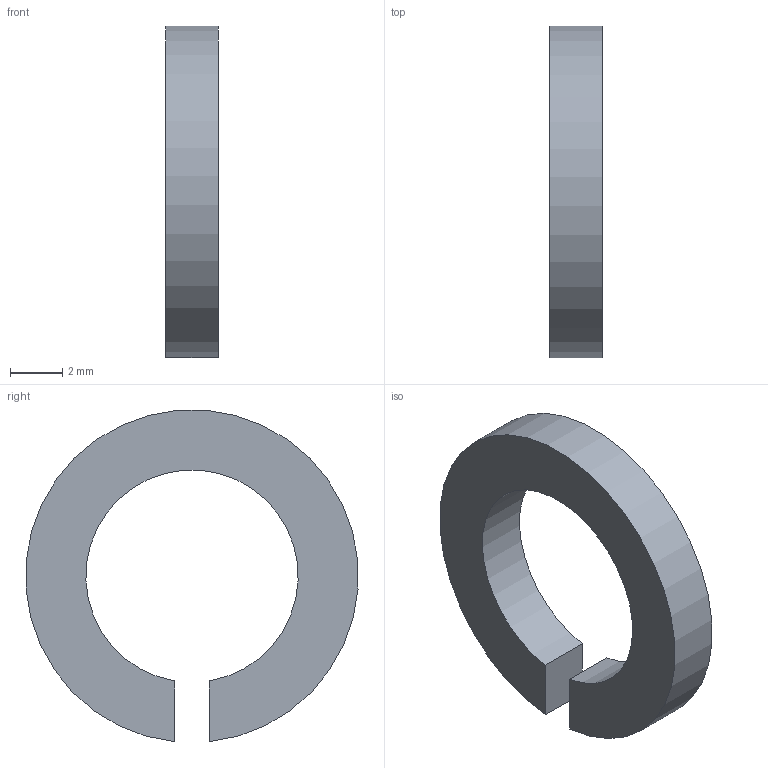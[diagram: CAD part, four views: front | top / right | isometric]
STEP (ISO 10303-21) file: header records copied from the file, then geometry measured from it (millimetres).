
FILE_DESCRIPTION (( 'STEP AP203' ), '1' );
FILE_NAME ('028 Rondelle Elastique.STEP', '2021-10-27T18:26:58', ( '' ), ( '' ), 'SwSTEP 2.0', 'SolidWorks 2019', '' );
FILE_SCHEMA (( 'CONFIG_CONTROL_DESIGN' ));
Length unit declared in the file: millimetre
Products named in the file (1): 028 Rondelle Elastique
Bounding box: 2 x 12.66 x 12.64 mm (x, y, z)
Volume: 144.1 mm3; surface area: 278.8 mm2
Topology: 1 solids, 1 shells, 6 faces, 12 edges, 8 vertices
Faces by surface type: plane 4, cylinder 2
Entity records: 237 total; most frequent: DIRECTION 30, CARTESIAN_POINT 27, ORIENTED_EDGE 24, EDGE_CURVE 12, AXIS2_PLACEMENT_3D 11, VECTOR 8, VERTEX_POINT 8, LINE 8
